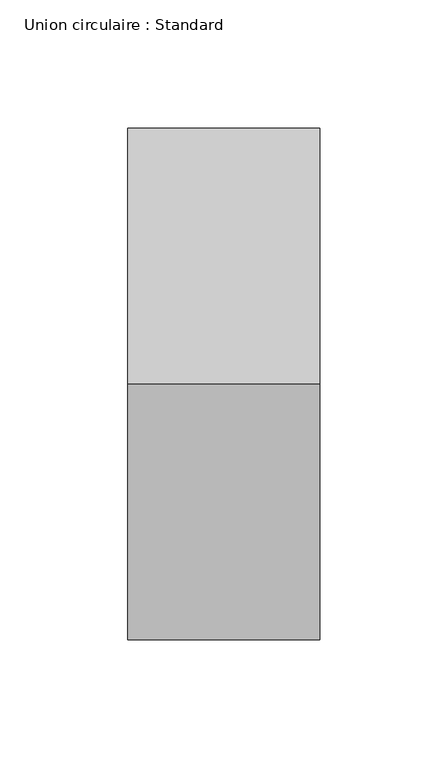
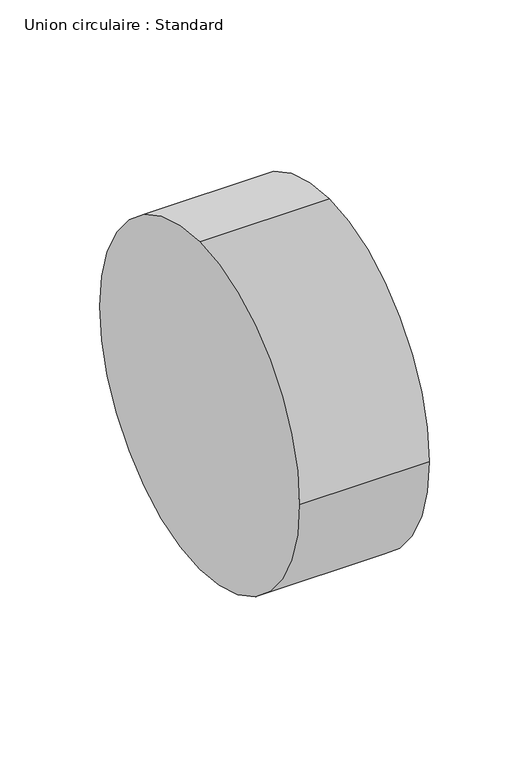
"""IFC4 building model written with IfcOpenShell, lengths in millimetres: duct fitting geometry, Union circulaire : Standard."""

from ifc_helpers import new_model, si_unit, point, frame, origin, origin_2d, place, context, project, spatial, circle_curve, trimmed, segment, composite_curve, outline, extrude, source, transform, mapped, element, save


def union_circulaire_standard_e680b66c(model_context):
    return source(origin(), model_context, "Body", "SweptSolid", [
        extrude(outline(composite_curve([segment(trimmed(circle_curve(origin_2d(), 100.0), [point((0.0, 100.0))], [point((100.0, 0.0))], False, "CARTESIAN"), True, "CONTINUOUS"), segment(trimmed(circle_curve(origin_2d(), 100.0), [point((100.0, 0.0))], [point((0.0, -100.0))], False, "CARTESIAN"), True, "CONTINUOUS"), segment(trimmed(circle_curve(origin_2d(), 100.0), [point((0.0, -100.0))], [point((-100.0, 0.0))], False, "CARTESIAN"), True, "CONTINUOUS"), segment(trimmed(circle_curve(origin_2d(), 100.0), [point((-100.0, 0.0))], [point((0.0, 100.0))], False, "CARTESIAN"), True, "CONTINUOUS")], self_intersect=False)), frame((0.0, 0.0, 0.0), z_axis=(1.0, 0.0, 0.0), x_axis=(0.0, 1.0, 0.0)), (0.0, 0.0, 1.0), 75.0),
    ])


if __name__ == "__main__":
    model = new_model("IFC4")
    model_context = context("Model", 3, world=origin())
    ifc_project = project(units=[si_unit("LENGTHUNIT", "METRE", prefix="MILLI")], contexts=[model_context])
    site = spatial("IfcSite", under=ifc_project)
    building = spatial("IfcBuilding", under=site)
    placement = place(None, origin())
    union_circulaire_standard_shape = union_circulaire_standard_e680b66c(model_context)
    element("IfcDuctFitting", 1, ObjectType="Union circulaire : Standard", at=placement, inside=building, context=model_context, shape_type="MappedRepresentation", body=[
        mapped(union_circulaire_standard_shape, transform((0.0, 0.0, 0.0), x_axis=(1.0, 0.0, 0.0), y_axis=(0.0, 1.0, 0.0), z_axis=(0.0, 0.0, 1.0))),
    ])
    save(model, "model.ifc")
